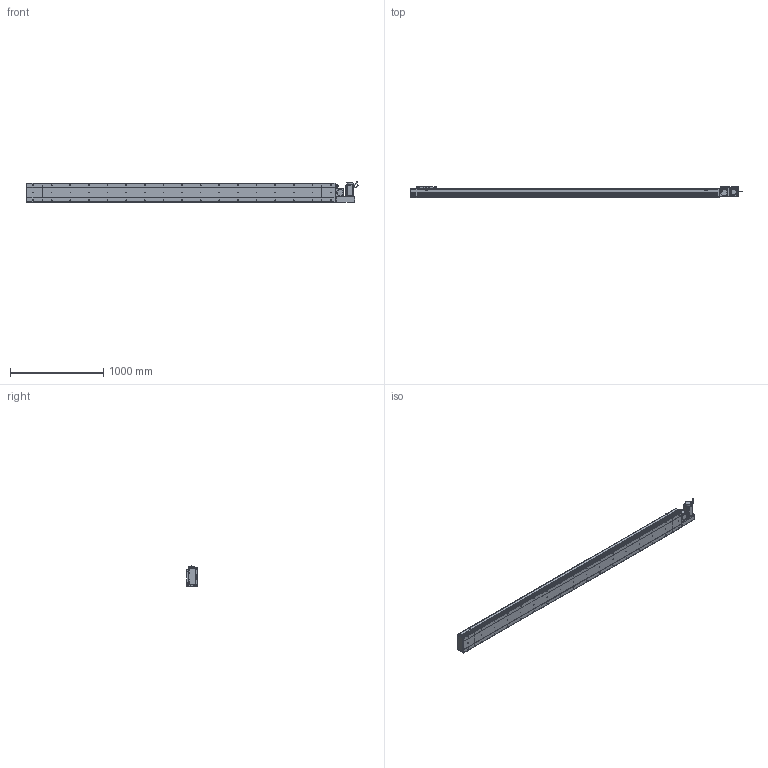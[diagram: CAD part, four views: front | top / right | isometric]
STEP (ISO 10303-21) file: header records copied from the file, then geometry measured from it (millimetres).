
FILE_DESCRIPTION (( 'STEP AP214' ), '1' );
FILE_NAME ('D20 CBH RH S3000.STEP', '2010-06-30T10:38:09', ( 'Conseil Régional Haute-Normandie' ), ( 'Conseil Régional Haute-Normandie' ), 'SwSTEP 2.0', 'SolidWorks 2010', '' );
FILE_SCHEMA (( 'AUTOMOTIVE_DESIGN' ));
Length unit declared in the file: millimetre
Products named in the file (31): Conecteur_Default; vis M5 L30_Default; ecrou_Default; Corp Tail D20_Default; Tail D20_Default; Glissiere_Default; Plaque De Serrage D20_Default; Plaque de Bout Tail D20_Default; Couvercle_Default; vis M5 L15_Default; Plaque de Bout Head D20 RH_Default; Plaque De Serrage D20 RH_Default; Chariot D20_Default; Cache Support Moteur RH_Default; D20 CBH RH S3000; Conecteur2_Default; Couvercle S3000_Default; Rondelle Cache D20 RH_Default; Support moteur RH_Default; Corp D20 S3000_Default; Support Chariot D20_Default; Moteur motionking 90BLDC125A-640; Corp S3000_Default; Couvercle RH_Default; Corp Tail D20 RH_Default; vis M5 L47_Default; corps 90BLDC125A-640; Head D20 RH_Default; codeur 90BLDC125-640; avant 90BLDC125A-640
Assembly tree (68 placements, depth 4):
  D20 CBH RH S3000
    Head D20 RH_Default
      Rondelle Cache D20 RH_Default  x3
      Corp Tail D20 RH_Default
      vis M5 L15_Default  x14
      ecrou_Default  x4
      vis M5 L47_Default  x4
      vis M5 L30_Default  x4
      Cache Support Moteur RH_Default
      Couvercle RH_Default
      Plaque De Serrage D20 RH_Default
      Plaque de Bout Head D20 RH_Default
      Moteur motionking 90BLDC125A-640
        avant 90BLDC125A-640
        corps 90BLDC125A-640
        codeur 90BLDC125-640
        Conecteur2_Default
        Conecteur_Default
      Support moteur RH_Default
    Tail D20_Default
      vis M5 L15_Default  x6
      Couvercle_Default
      Plaque De Serrage D20_Default
      Corp Tail D20_Default
      Plaque de Bout Tail D20_Default
    Chariot D20_Default
      vis M5 L15_Default  x8
      Glissiere_Default
      Support Chariot D20_Default
      Chariot D20_Default
    Corp D20 S3000_Default
      Couvercle S3000_Default
      Corp S3000_Default
Bounding box: 3565.45 x 119.5 x 229.7 mm (x, y, z)
Volume: 23242126.1 mm3; surface area: 4470179 mm2
Topology: 105 solids, 105 shells, 3862 faces, 9588 edges, 6226 vertices
Faces by surface type: plane 2143, bspline 806, cylinder 742, torus 95, cone 72, sphere 4
Entity records: 160622 total; most frequent: CARTESIAN_POINT 82508, ORIENTED_EDGE 15444, DIRECTION 11854, EDGE_CURVE 7722, VERTEX_POINT 5110, VECTOR 4966, LINE 4966, AXIS2_PLACEMENT_3D 3444
